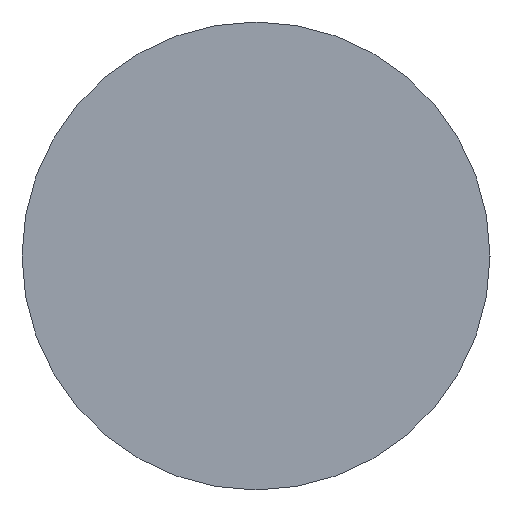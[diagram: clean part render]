
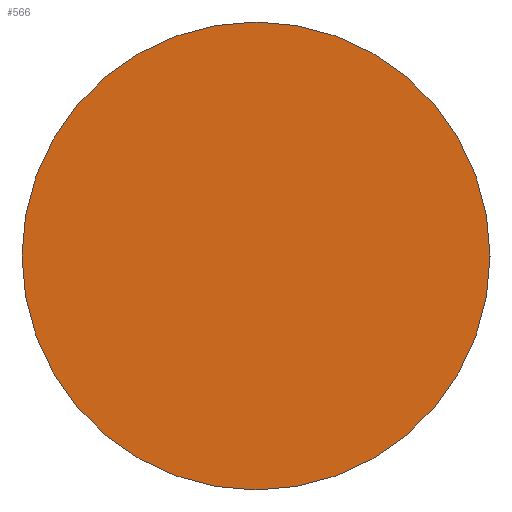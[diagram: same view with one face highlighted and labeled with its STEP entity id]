
A CAD part, left-side view. The second image highlights one B-rep face of the part: STEP entity #566.
In plain terms, the highlighted planar face has unit normal (-1, 0, 0).
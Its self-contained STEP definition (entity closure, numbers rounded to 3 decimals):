
#16=PLANE('',#649);
#90=FACE_OUTER_BOUND('',#118,.T.);
#118=EDGE_LOOP('',(#448,#449));
#168=CIRCLE('',#650,2.75);
#169=CIRCLE('',#651,2.75);
#237=VERTEX_POINT('',#1014);
#238=VERTEX_POINT('',#1015);
#315=EDGE_CURVE('',#237,#238,#168,.T.);
#316=EDGE_CURVE('',#238,#237,#169,.T.);
#448=ORIENTED_EDGE('',*,*,#315,.F.);
#449=ORIENTED_EDGE('',*,*,#316,.F.);
#566=ADVANCED_FACE('',(#90),#16,.T.);
#649=AXIS2_PLACEMENT_3D('',#1013,#808,#809);
#650=AXIS2_PLACEMENT_3D('',#1016,#810,#811);
#651=AXIS2_PLACEMENT_3D('',#1017,#812,#813);
#808=DIRECTION('center_axis',(-1.,0.,0.));
#809=DIRECTION('ref_axis',(0.,0.,1.));
#810=DIRECTION('center_axis',(1.,0.,0.));
#811=DIRECTION('ref_axis',(0.,0.,-1.));
#812=DIRECTION('center_axis',(1.,0.,0.));
#813=DIRECTION('ref_axis',(0.,0.,-1.));
#1013=CARTESIAN_POINT('Origin',(0.,2.75,0.));
#1014=CARTESIAN_POINT('',(0.,2.75,0.));
#1015=CARTESIAN_POINT('',(0.,-2.75,0.));
#1016=CARTESIAN_POINT('Origin',(0.,0.,0.));
#1017=CARTESIAN_POINT('Origin',(0.,0.,0.));
